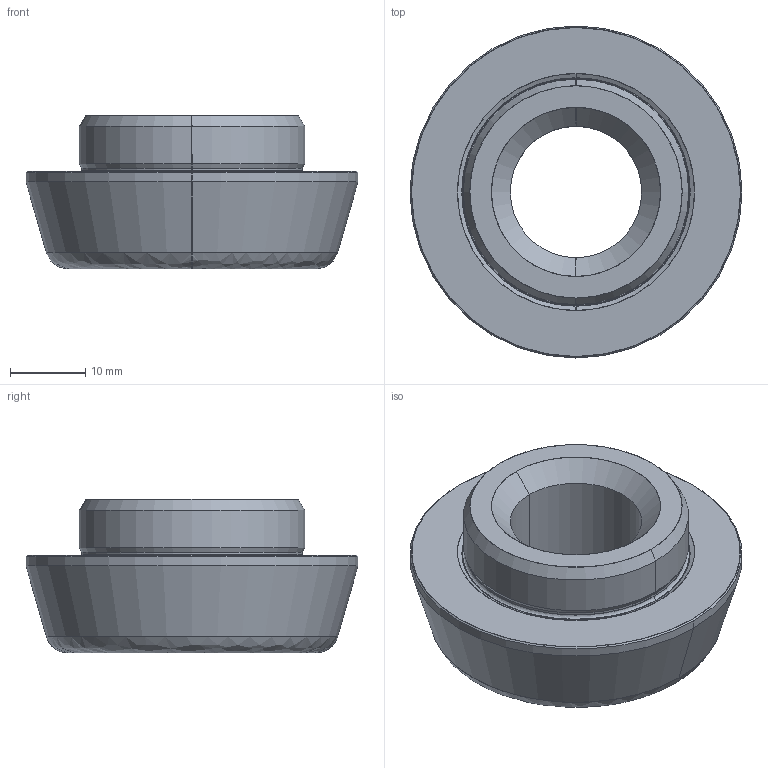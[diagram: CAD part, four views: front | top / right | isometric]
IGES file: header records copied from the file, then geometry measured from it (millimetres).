
Start section: SolidWorks IGES file using analytic representation for surfaces
Global section: file name: X:\12_SW2021-Inv2021\06_2023-1106新製品\データ\Ｃ\CP157-20001L\CP157-20001L.IGS; native system: SolidWorks 2021; preprocessor: SolidWorks 2021; author: ImaoCorp; date: 230526.114159; units: millimetre
Bounding box: 44.2 x 44.2 x 20.5 mm (x, y, z)
Surface area: 5488.7 mm2 (no closed solid volume)
Topology: 0 solids, 0 shells, 30 faces, 552 edges, 552 vertices
Faces by surface type: revolution 22, bspline 8
